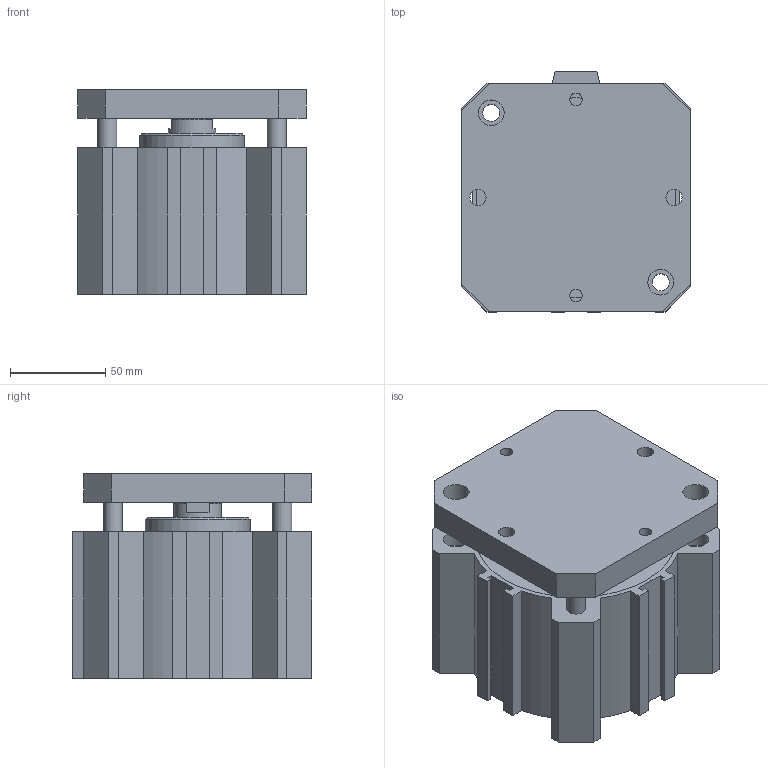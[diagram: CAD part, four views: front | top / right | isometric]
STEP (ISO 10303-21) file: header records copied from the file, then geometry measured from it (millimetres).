
FILE_DESCRIPTION(/* description */ (''),/* implementation_level */ '2;1');
FILE_NAME(/* name */ 'I:\Area Tecnica\Disegni\VARIE-3D\Componenti\1500\Ø100\15##_100_####_#\1501_100_0030_AR.stp',/* time_stamp */ '2016-08-24T15:09:32+02:00',/* author */ ('Maniean1'),/* organization */ (''),/* preprocessor_version */ 'ST-DEVELOPER v15.2',/* originating_system */ 'Autodesk Inventor 2014',/* authorisation */ '');
FILE_SCHEMA (('AUTOMOTIVE_DESIGN { 1 0 10303 214 3 1 1 }'));
Length unit declared in the file: millimetre
Products named in the file (3): C_1501_100_0030_AR; S_1501_100_0030_AR; 1501_100_0030_AR
Bounding box: 120 x 126 x 107.5 mm (x, y, z)
Volume: 884838.7 mm3; surface area: 183561 mm2
Topology: 2 solids, 2 shells, 139 faces, 342 edges, 229 vertices
Faces by surface type: plane 94, cylinder 40, cone 5
Full cylindrical faces by diameter (mm): 6.647 x2, 8.5 x2, 9 x4, 10 x4, 13.5 x10, 14.95 x2, 25 x2, 55 x2, 100 x2, 105 x2
Entity records: 3978 total; most frequent: CARTESIAN_POINT 674, DIRECTION 672, ORIENTED_EDGE 600, EDGE_CURVE 300, AXIS2_PLACEMENT_3D 232, VERTEX_POINT 222, EDGE_LOOP 216, LINE 208
